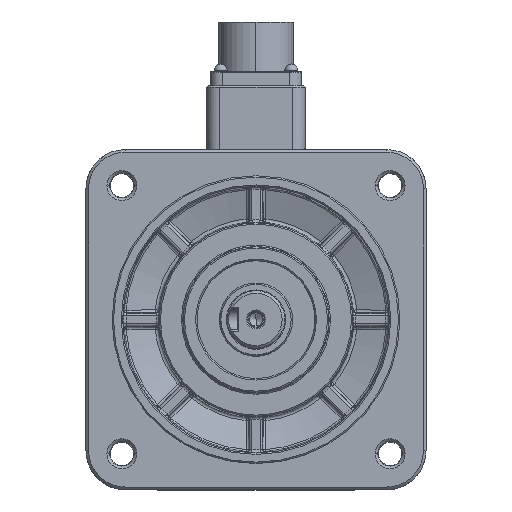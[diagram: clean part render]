
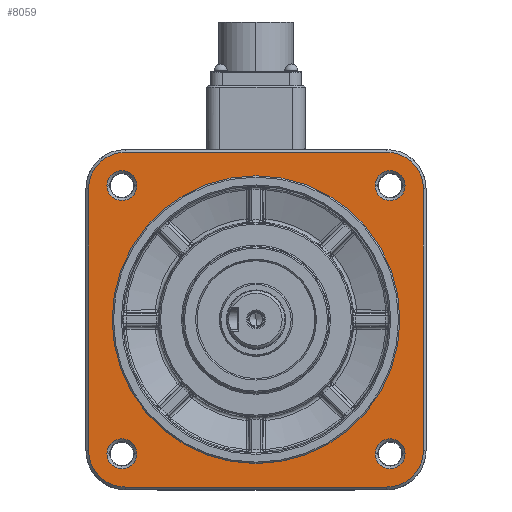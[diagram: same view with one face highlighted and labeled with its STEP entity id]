
A CAD part, top view. The second image highlights one B-rep face of the part: STEP entity #8059.
In plain terms, the highlighted planar face has unit normal (0, 0, 1).
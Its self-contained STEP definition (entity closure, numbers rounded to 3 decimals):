
#574=CARTESIAN_POINT('',(-50.,50.,85.5));
#575=DIRECTION('',(0.,0.,-1.));
#576=DIRECTION('',(-1.,0.,0.));
#577=AXIS2_PLACEMENT_3D('',#574,#575,#576);
#579=DIRECTION('',(1.,0.,0.));
#580=VECTOR('',#579,100.);
#581=CARTESIAN_POINT('',(-50.,63.982,85.5));
#582=LINE('',#581,#580);
#583=CARTESIAN_POINT('',(50.,50.,85.5));
#584=DIRECTION('',(0.,0.,-1.));
#585=DIRECTION('',(0.,1.,0.));
#586=AXIS2_PLACEMENT_3D('',#583,#584,#585);
#588=DIRECTION('',(0.,-1.,0.));
#589=VECTOR('',#588,100.);
#590=CARTESIAN_POINT('',(63.982,50.,85.5));
#591=LINE('',#590,#589);
#592=CARTESIAN_POINT('',(50.,-50.,85.5));
#593=DIRECTION('',(0.,0.,-1.));
#594=DIRECTION('',(1.,0.,0.));
#595=AXIS2_PLACEMENT_3D('',#592,#593,#594);
#597=DIRECTION('',(-1.,0.,0.));
#598=VECTOR('',#597,100.);
#599=CARTESIAN_POINT('',(50.,-63.982,85.5));
#600=LINE('',#599,#598);
#601=CARTESIAN_POINT('',(-50.,-50.,85.5));
#602=DIRECTION('',(0.,0.,-1.));
#603=DIRECTION('',(0.,-1.,0.));
#604=AXIS2_PLACEMENT_3D('',#601,#602,#603);
#606=DIRECTION('',(0.,1.,0.));
#607=VECTOR('',#606,100.);
#608=CARTESIAN_POINT('',(-63.982,-50.,85.5));
#609=LINE('',#608,#607);
#610=CARTESIAN_POINT('',(-51.265,51.265,85.5));
#611=DIRECTION('',(0.,0.,1.));
#612=DIRECTION('',(-1.,0.,0.));
#613=AXIS2_PLACEMENT_3D('',#610,#611,#612);
#615=CARTESIAN_POINT('',(-51.265,51.265,85.5));
#616=DIRECTION('',(0.,0.,1.));
#617=DIRECTION('',(0.,-1.,0.));
#618=AXIS2_PLACEMENT_3D('',#615,#616,#617);
#620=CARTESIAN_POINT('',(-51.265,51.265,85.5));
#621=DIRECTION('',(0.,0.,1.));
#622=DIRECTION('',(1.,0.,0.));
#623=AXIS2_PLACEMENT_3D('',#620,#621,#622);
#625=CARTESIAN_POINT('',(-51.265,51.265,85.5));
#626=DIRECTION('',(0.,0.,1.));
#627=DIRECTION('',(0.,1.,0.));
#628=AXIS2_PLACEMENT_3D('',#625,#626,#627);
#630=CARTESIAN_POINT('',(0.,0.,85.5));
#631=DIRECTION('',(0.,0.,1.));
#632=DIRECTION('',(0.,-1.,0.));
#633=AXIS2_PLACEMENT_3D('',#630,#631,#632);
#635=CARTESIAN_POINT('',(0.,0.,85.5));
#636=DIRECTION('',(0.,0.,1.));
#637=DIRECTION('',(0.,1.,0.));
#638=AXIS2_PLACEMENT_3D('',#635,#636,#637);
#640=CARTESIAN_POINT('',(51.265,51.265,85.5));
#641=DIRECTION('',(0.,0.,1.));
#642=DIRECTION('',(1.,0.,0.));
#643=AXIS2_PLACEMENT_3D('',#640,#641,#642);
#645=CARTESIAN_POINT('',(51.265,51.265,85.5));
#646=DIRECTION('',(0.,0.,1.));
#647=DIRECTION('',(0.,1.,0.));
#648=AXIS2_PLACEMENT_3D('',#645,#646,#647);
#650=CARTESIAN_POINT('',(51.265,51.265,85.5));
#651=DIRECTION('',(0.,0.,1.));
#652=DIRECTION('',(-1.,0.,0.));
#653=AXIS2_PLACEMENT_3D('',#650,#651,#652);
#655=CARTESIAN_POINT('',(51.265,51.265,85.5));
#656=DIRECTION('',(0.,0.,1.));
#657=DIRECTION('',(0.,-1.,0.));
#658=AXIS2_PLACEMENT_3D('',#655,#656,#657);
#660=CARTESIAN_POINT('',(51.265,-51.265,85.5));
#661=DIRECTION('',(0.,0.,1.));
#662=DIRECTION('',(-1.,0.,0.));
#663=AXIS2_PLACEMENT_3D('',#660,#661,#662);
#665=CARTESIAN_POINT('',(51.265,-51.265,85.5));
#666=DIRECTION('',(0.,0.,1.));
#667=DIRECTION('',(0.,-1.,0.));
#668=AXIS2_PLACEMENT_3D('',#665,#666,#667);
#670=CARTESIAN_POINT('',(51.265,-51.265,85.5));
#671=DIRECTION('',(0.,0.,1.));
#672=DIRECTION('',(1.,0.,0.));
#673=AXIS2_PLACEMENT_3D('',#670,#671,#672);
#675=CARTESIAN_POINT('',(51.265,-51.265,85.5));
#676=DIRECTION('',(0.,0.,1.));
#677=DIRECTION('',(0.,1.,0.));
#678=AXIS2_PLACEMENT_3D('',#675,#676,#677);
#680=CARTESIAN_POINT('',(-51.265,-51.265,85.5));
#681=DIRECTION('',(0.,0.,1.));
#682=DIRECTION('',(-1.,0.,0.));
#683=AXIS2_PLACEMENT_3D('',#680,#681,#682);
#685=CARTESIAN_POINT('',(-51.265,-51.265,85.5));
#686=DIRECTION('',(0.,0.,1.));
#687=DIRECTION('',(0.,-1.,0.));
#688=AXIS2_PLACEMENT_3D('',#685,#686,#687);
#690=CARTESIAN_POINT('',(-51.265,-51.265,85.5));
#691=DIRECTION('',(0.,0.,1.));
#692=DIRECTION('',(1.,0.,0.));
#693=AXIS2_PLACEMENT_3D('',#690,#691,#692);
#695=CARTESIAN_POINT('',(-51.265,-51.265,85.5));
#696=DIRECTION('',(0.,0.,1.));
#697=DIRECTION('',(0.,1.,0.));
#698=AXIS2_PLACEMENT_3D('',#695,#696,#697);
#6064=CARTESIAN_POINT('',(-50.,63.982,85.5));
#6065=CARTESIAN_POINT('',(50.,63.982,85.5));
#6066=VERTEX_POINT('',#6064);
#6067=VERTEX_POINT('',#6065);
#6068=CARTESIAN_POINT('',(-63.982,50.,85.5));
#6069=VERTEX_POINT('',#6068);
#6070=CARTESIAN_POINT('',(63.982,50.,85.5));
#6071=VERTEX_POINT('',#6070);
#6072=CARTESIAN_POINT('',(63.982,-50.,85.5));
#6073=VERTEX_POINT('',#6072);
#6074=CARTESIAN_POINT('',(50.,-63.982,85.5));
#6075=VERTEX_POINT('',#6074);
#6076=CARTESIAN_POINT('',(-50.,-63.982,
85.5));
#6077=VERTEX_POINT('',#6076);
#6078=CARTESIAN_POINT('',(-63.982,-50.,85.5));
#6079=VERTEX_POINT('',#6078);
#6080=CARTESIAN_POINT('',(-51.265,45.547,85.5));
#6081=CARTESIAN_POINT('',(-45.547,51.265,85.5));
#6082=VERTEX_POINT('',#6080);
#6083=VERTEX_POINT('',#6081);
#6084=CARTESIAN_POINT('',(-56.983,51.265,85.5));
#6085=VERTEX_POINT('',#6084);
#6086=CARTESIAN_POINT('',(-51.265,56.983,85.5));
#6087=VERTEX_POINT('',#6086);
#6088=CARTESIAN_POINT('',(0.,-55.,85.5));
#6089=CARTESIAN_POINT('',(0.,55.,85.5));
#6090=VERTEX_POINT('',#6088);
#6091=VERTEX_POINT('',#6089);
#6092=CARTESIAN_POINT('',(51.265,56.983,85.5));
#6093=CARTESIAN_POINT('',(45.547,51.265,85.5));
#6094=VERTEX_POINT('',#6092);
#6095=VERTEX_POINT('',#6093);
#6096=CARTESIAN_POINT('',(56.983,51.265,85.5));
#6097=VERTEX_POINT('',#6096);
#6098=CARTESIAN_POINT('',(51.265,45.547,85.5));
#6099=VERTEX_POINT('',#6098);
#6100=CARTESIAN_POINT('',(51.265,-56.983,85.5));
#6101=CARTESIAN_POINT('',(56.983,-51.265,85.5));
#6102=VERTEX_POINT('',#6100);
#6103=VERTEX_POINT('',#6101);
#6104=CARTESIAN_POINT('',(45.547,-51.265,85.5));
#6105=VERTEX_POINT('',#6104);
#6106=CARTESIAN_POINT('',(51.265,-45.547,85.5));
#6107=VERTEX_POINT('',#6106);
#6108=CARTESIAN_POINT('',(-51.265,-56.983,85.5));
#6109=CARTESIAN_POINT('',(-45.547,-51.265,85.5));
#6110=VERTEX_POINT('',#6108);
#6111=VERTEX_POINT('',#6109);
#6112=CARTESIAN_POINT('',(-56.983,-51.265,85.5));
#6113=VERTEX_POINT('',#6112);
#6114=CARTESIAN_POINT('',(-51.265,-45.547,85.5));
#6115=VERTEX_POINT('',#6114);
#7992=CARTESIAN_POINT('',(0.,0.,85.5));
#7993=DIRECTION('',(0.,0.,-1.));
#7994=DIRECTION('',(0.,-1.,0.));
#7995=AXIS2_PLACEMENT_3D('',#7992,#7993,#7994);
#7996=PLANE('',#7995);
#7998=ORIENTED_EDGE('',*,*,#7997,.T.);
#8000=ORIENTED_EDGE('',*,*,#7999,.T.);
#8002=ORIENTED_EDGE('',*,*,#8001,.T.);
#8004=ORIENTED_EDGE('',*,*,#8003,.T.);
#8006=ORIENTED_EDGE('',*,*,#8005,.T.);
#8008=ORIENTED_EDGE('',*,*,#8007,.T.);
#8010=ORIENTED_EDGE('',*,*,#8009,.T.);
#8012=ORIENTED_EDGE('',*,*,#8011,.T.);
#8013=EDGE_LOOP('',(#7998,#8000,#8002,#8004,#8006,#8008,#8010,#8012));
#8014=FACE_OUTER_BOUND('',#8013,.F.);
#8015=ORIENTED_EDGE('',*,*,#7981,.T.);
#8016=ORIENTED_EDGE('',*,*,#7979,.T.);
#8018=ORIENTED_EDGE('',*,*,#8017,.T.);
#8020=ORIENTED_EDGE('',*,*,#8019,.T.);
#8021=EDGE_LOOP('',(#8015,#8016,#8018,#8020));
#8022=FACE_BOUND('',#8021,.F.);
#8024=ORIENTED_EDGE('',*,*,#8023,.T.);
#8026=ORIENTED_EDGE('',*,*,#8025,.T.);
#8027=EDGE_LOOP('',(#8024,#8026));
#8028=FACE_BOUND('',#8027,.F.);
#8030=ORIENTED_EDGE('',*,*,#8029,.T.);
#8032=ORIENTED_EDGE('',*,*,#8031,.T.);
#8034=ORIENTED_EDGE('',*,*,#8033,.T.);
#8036=ORIENTED_EDGE('',*,*,#8035,.T.);
#8037=EDGE_LOOP('',(#8030,#8032,#8034,#8036));
#8038=FACE_BOUND('',#8037,.F.);
#8040=ORIENTED_EDGE('',*,*,#8039,.T.);
#8042=ORIENTED_EDGE('',*,*,#8041,.T.);
#8044=ORIENTED_EDGE('',*,*,#8043,.T.);
#8046=ORIENTED_EDGE('',*,*,#8045,.T.);
#8047=EDGE_LOOP('',(#8040,#8042,#8044,#8046));
#8048=FACE_BOUND('',#8047,.F.);
#8050=ORIENTED_EDGE('',*,*,#8049,.T.);
#8052=ORIENTED_EDGE('',*,*,#8051,.T.);
#8054=ORIENTED_EDGE('',*,*,#8053,.T.);
#8056=ORIENTED_EDGE('',*,*,#8055,.T.);
#8057=EDGE_LOOP('',(#8050,#8052,#8054,#8056));
#8058=FACE_BOUND('',#8057,.F.);
#8059=ADVANCED_FACE('',(#8014,#8022,#8028,#8038,#8048,#8058),#7996,.F.);
#578=CIRCLE('',#577,13.982);
#587=CIRCLE('',#586,13.982);
#596=CIRCLE('',#595,13.982);
#605=CIRCLE('',#604,13.982);
#614=CIRCLE('',#613,5.718);
#619=CIRCLE('',#618,5.718);
#624=CIRCLE('',#623,5.718);
#629=CIRCLE('',#628,5.718);
#634=CIRCLE('',#633,55.);
#639=CIRCLE('',#638,55.);
#644=CIRCLE('',#643,5.718);
#649=CIRCLE('',#648,5.718);
#654=CIRCLE('',#653,5.718);
#659=CIRCLE('',#658,5.718);
#664=CIRCLE('',#663,5.718);
#669=CIRCLE('',#668,5.718);
#674=CIRCLE('',#673,5.718);
#679=CIRCLE('',#678,5.718);
#684=CIRCLE('',#683,5.718);
#689=CIRCLE('',#688,5.718);
#694=CIRCLE('',#693,5.718);
#699=CIRCLE('',#698,5.718);
#7979=EDGE_CURVE('',#6082,#6083,#619,.T.);
#7981=EDGE_CURVE('',#6085,#6082,#614,.T.);
#7997=EDGE_CURVE('',#6069,#6066,#578,.T.);
#7999=EDGE_CURVE('',#6066,#6067,#582,.T.);
#8001=EDGE_CURVE('',#6067,#6071,#587,.T.);
#8003=EDGE_CURVE('',#6071,#6073,#591,.T.);
#8005=EDGE_CURVE('',#6073,#6075,#596,.T.);
#8007=EDGE_CURVE('',#6075,#6077,#600,.T.);
#8009=EDGE_CURVE('',#6077,#6079,#605,.T.);
#8011=EDGE_CURVE('',#6079,#6069,#609,.T.);
#8017=EDGE_CURVE('',#6083,#6087,#624,.T.);
#8019=EDGE_CURVE('',#6087,#6085,#629,.T.);
#8023=EDGE_CURVE('',#6090,#6091,#634,.T.);
#8025=EDGE_CURVE('',#6091,#6090,#639,.T.);
#8029=EDGE_CURVE('',#6097,#6094,#644,.T.);
#8031=EDGE_CURVE('',#6094,#6095,#649,.T.);
#8033=EDGE_CURVE('',#6095,#6099,#654,.T.);
#8035=EDGE_CURVE('',#6099,#6097,#659,.T.);
#8039=EDGE_CURVE('',#6105,#6102,#664,.T.);
#8041=EDGE_CURVE('',#6102,#6103,#669,.T.);
#8043=EDGE_CURVE('',#6103,#6107,#674,.T.);
#8045=EDGE_CURVE('',#6107,#6105,#679,.T.);
#8049=EDGE_CURVE('',#6113,#6110,#684,.T.);
#8051=EDGE_CURVE('',#6110,#6111,#689,.T.);
#8053=EDGE_CURVE('',#6111,#6115,#694,.T.);
#8055=EDGE_CURVE('',#6115,#6113,#699,.T.);
